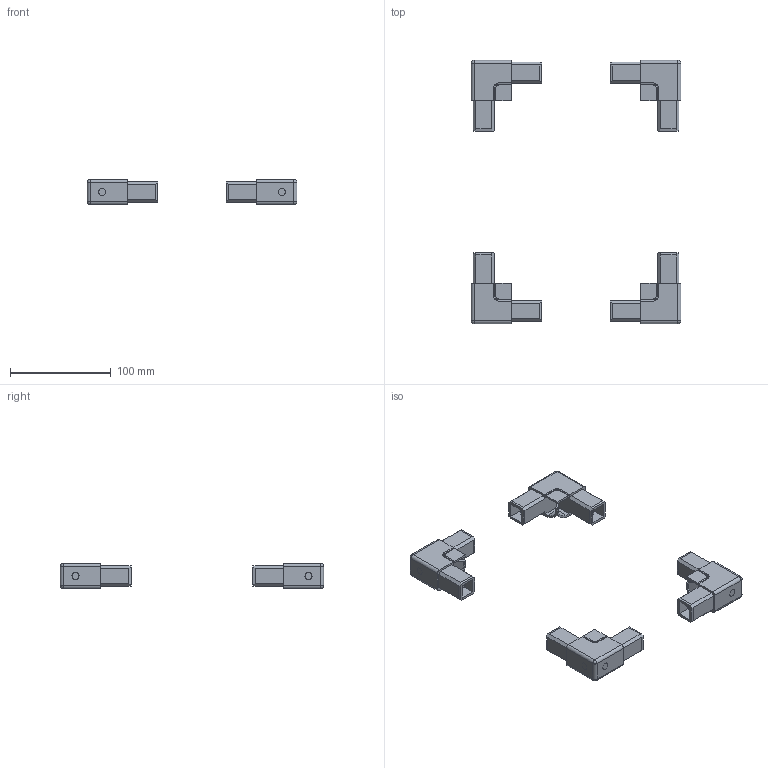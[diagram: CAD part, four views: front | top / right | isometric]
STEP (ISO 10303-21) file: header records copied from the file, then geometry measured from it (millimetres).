
FILE_DESCRIPTION (( 'STEP AP214' ), '1' );
FILE_NAME ('L15840 ENS.step', '2024-12-03T16:22:04', ( '' ), ( '' ), 'SwSTEP 2.0', 'SolidWorks 2023', '' );
FILE_SCHEMA (( 'AUTOMOTIVE_DESIGN' ));
Length unit declared in the file: millimetre
Products named in the file (2): L15840; L15840 ENS
Assembly tree (4 placements, depth 2):
  L15840 ENS
    L15840  x4
Bounding box: 207.89 x 260.84 x 25 mm (x, y, z)
Volume: 164943.4 mm3; surface area: 101483.3 mm2
Topology: 4 solids, 4 shells, 392 faces, 1180 edges, 760 vertices
Faces by surface type: plane 304, cylinder 72, sphere 8, cone 8
Full cylindrical faces by diameter (mm): 7 x20
Entity records: 3351 total; most frequent: CARTESIAN_POINT 650, ORIENTED_EDGE 572, DIRECTION 519, EDGE_CURVE 286, LINE 237, VECTOR 237, VERTEX_POINT 188, AXIS2_PLACEMENT_3D 141
